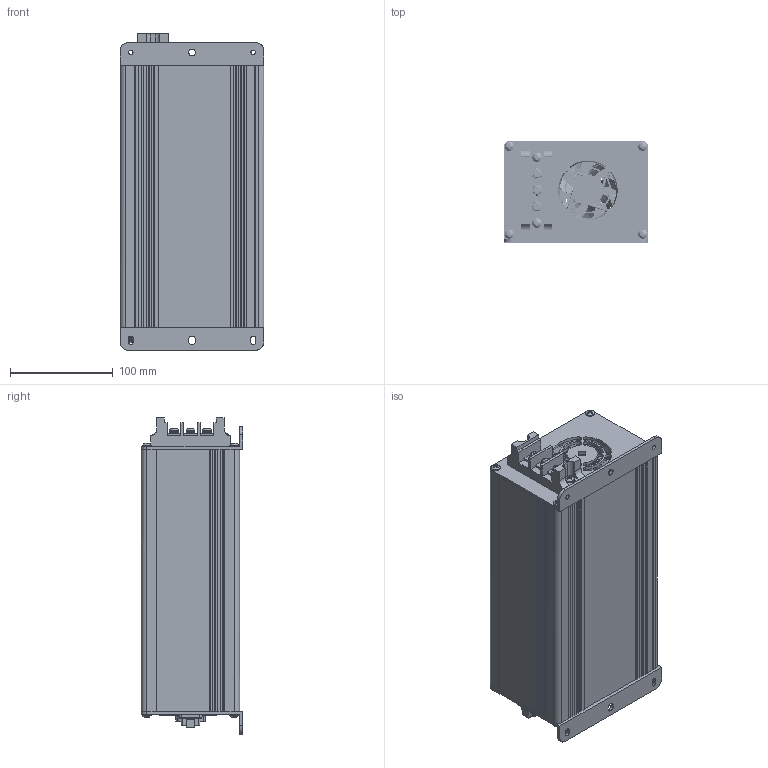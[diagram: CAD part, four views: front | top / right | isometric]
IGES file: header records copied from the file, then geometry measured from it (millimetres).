
Global section: file name: DH255COM; native system: Autodesk Inventor 2021; preprocessor: unknown; author: eunsol jang; date: 20220616.144205; units: inch
Bounding box: 140 x 98.5 x 307.5 mm (x, y, z)
Volume: 528936 mm3; surface area: 365665.5 mm2
Topology: 3 solids, 3 shells, 2625 faces, 8369 edges, 6007 vertices
Faces by surface type: bspline 2625
